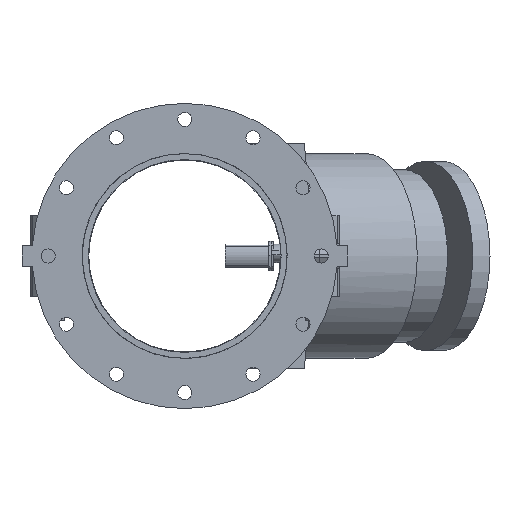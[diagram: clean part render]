
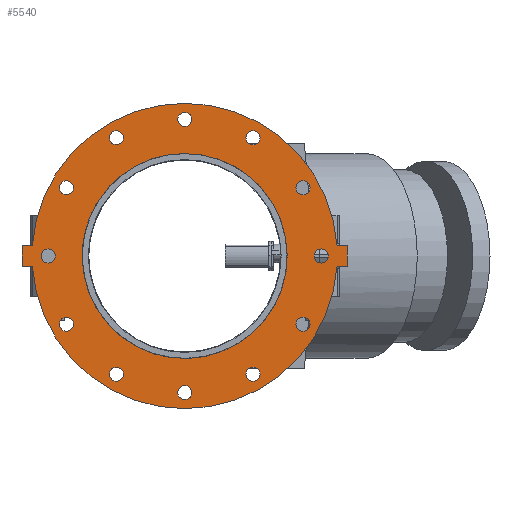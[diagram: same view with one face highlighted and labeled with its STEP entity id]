
A CAD part, front view. The second image highlights one B-rep face of the part: STEP entity #5540.
In plain terms, the highlighted planar face has unit normal (0, -1, 0) as drawn and (0, 0, 1) by its records, which use the part's own axes.
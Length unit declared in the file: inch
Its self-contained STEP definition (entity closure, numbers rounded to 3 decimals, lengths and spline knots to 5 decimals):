
#147=FACE_BOUND('',#742,.T.);
#148=FACE_BOUND('',#743,.T.);
#149=FACE_BOUND('',#744,.T.);
#150=FACE_BOUND('',#745,.T.);
#151=FACE_BOUND('',#746,.T.);
#152=FACE_BOUND('',#747,.T.);
#153=FACE_BOUND('',#748,.T.);
#154=FACE_BOUND('',#749,.T.);
#155=FACE_BOUND('',#750,.T.);
#156=FACE_BOUND('',#751,.T.);
#157=FACE_BOUND('',#752,.T.);
#158=FACE_BOUND('',#753,.T.);
#159=FACE_BOUND('',#754,.T.);
#223=PLANE('',#6060);
#422=FACE_OUTER_BOUND('',#741,.T.);
#741=EDGE_LOOP('',(#3654,#3655,#3656,#3657,#3658,#3659,#3660,#3661));
#742=EDGE_LOOP('',(#3662));
#743=EDGE_LOOP('',(#3663));
#744=EDGE_LOOP('',(#3664));
#745=EDGE_LOOP('',(#3665));
#746=EDGE_LOOP('',(#3666));
#747=EDGE_LOOP('',(#3667));
#748=EDGE_LOOP('',(#3668));
#749=EDGE_LOOP('',(#3669));
#750=EDGE_LOOP('',(#3670));
#751=EDGE_LOOP('',(#3671));
#752=EDGE_LOOP('',(#3672));
#753=EDGE_LOOP('',(#3673));
#754=EDGE_LOOP('',(#3674,#3675));
#1118=LINE('',#8492,#1531);
#1119=LINE('',#8495,#1532);
#1122=LINE('',#8500,#1535);
#1123=LINE('',#8503,#1536);
#1125=LINE('',#8506,#1538);
#1126=LINE('',#8508,#1539);
#1531=VECTOR('',#6783,0.3937);
#1532=VECTOR('',#6786,0.3937);
#1535=VECTOR('',#6791,0.3937);
#1536=VECTOR('',#6794,0.3937);
#1538=VECTOR('',#6798,0.3937);
#1539=VECTOR('',#6801,0.3937);
#1920=CIRCLE('',#6007,0.4375);
#1922=CIRCLE('',#6010,0.4375);
#1924=CIRCLE('',#6013,0.4375);
#1926=CIRCLE('',#6016,0.4375);
#1928=CIRCLE('',#6019,0.4375);
#1930=CIRCLE('',#6022,0.4375);
#1932=CIRCLE('',#6025,0.4375);
#1934=CIRCLE('',#6028,0.4375);
#1936=CIRCLE('',#6031,0.4375);
#1938=CIRCLE('',#6034,0.4375);
#1940=CIRCLE('',#6037,0.4375);
#1942=CIRCLE('',#6040,0.4375);
#1948=CIRCLE('',#6048,9.5);
#1949=CIRCLE('',#6050,6.375);
#1950=CIRCLE('',#6051,6.375);
#1951=CIRCLE('',#6053,9.5);
#2236=VERTEX_POINT('',#8379);
#2238=VERTEX_POINT('',#8385);
#2240=VERTEX_POINT('',#8391);
#2242=VERTEX_POINT('',#8397);
#2244=VERTEX_POINT('',#8403);
#2246=VERTEX_POINT('',#8409);
#2248=VERTEX_POINT('',#8415);
#2250=VERTEX_POINT('',#8421);
#2252=VERTEX_POINT('',#8427);
#2254=VERTEX_POINT('',#8433);
#2256=VERTEX_POINT('',#8439);
#2258=VERTEX_POINT('',#8445);
#2270=VERTEX_POINT('',#8472);
#2271=VERTEX_POINT('',#8474);
#2272=VERTEX_POINT('',#8478);
#2273=VERTEX_POINT('',#8480);
#2274=VERTEX_POINT('',#8484);
#2275=VERTEX_POINT('',#8486);
#2276=VERTEX_POINT('',#8490);
#2277=VERTEX_POINT('',#8494);
#2278=VERTEX_POINT('',#8498);
#2279=VERTEX_POINT('',#8502);
#2768=EDGE_CURVE('',#2236,#2236,#1920,.T.);
#2771=EDGE_CURVE('',#2238,#2238,#1922,.T.);
#2774=EDGE_CURVE('',#2240,#2240,#1924,.T.);
#2777=EDGE_CURVE('',#2242,#2242,#1926,.T.);
#2780=EDGE_CURVE('',#2244,#2244,#1928,.T.);
#2783=EDGE_CURVE('',#2246,#2246,#1930,.T.);
#2786=EDGE_CURVE('',#2248,#2248,#1932,.T.);
#2789=EDGE_CURVE('',#2250,#2250,#1934,.T.);
#2792=EDGE_CURVE('',#2252,#2252,#1936,.T.);
#2795=EDGE_CURVE('',#2254,#2254,#1938,.T.);
#2798=EDGE_CURVE('',#2256,#2256,#1940,.T.);
#2801=EDGE_CURVE('',#2258,#2258,#1942,.T.);
#2816=EDGE_CURVE('',#2270,#2271,#1948,.T.);
#2818=EDGE_CURVE('',#2273,#2272,#1949,.T.);
#2819=EDGE_CURVE('',#2272,#2273,#1950,.T.);
#2821=EDGE_CURVE('',#2275,#2274,#1951,.T.);
#2824=EDGE_CURVE('',#2271,#2276,#1118,.T.);
#2825=EDGE_CURVE('',#2277,#2275,#1119,.T.);
#2828=EDGE_CURVE('',#2274,#2278,#1122,.T.);
#2829=EDGE_CURVE('',#2279,#2270,#1123,.T.);
#2831=EDGE_CURVE('',#2278,#2279,#1125,.T.);
#2832=EDGE_CURVE('',#2276,#2277,#1126,.T.);
#3654=ORIENTED_EDGE('',*,*,#2828,.T.);
#3655=ORIENTED_EDGE('',*,*,#2831,.T.);
#3656=ORIENTED_EDGE('',*,*,#2829,.T.);
#3657=ORIENTED_EDGE('',*,*,#2816,.T.);
#3658=ORIENTED_EDGE('',*,*,#2824,.T.);
#3659=ORIENTED_EDGE('',*,*,#2832,.T.);
#3660=ORIENTED_EDGE('',*,*,#2825,.T.);
#3661=ORIENTED_EDGE('',*,*,#2821,.T.);
#3662=ORIENTED_EDGE('',*,*,#2768,.T.);
#3663=ORIENTED_EDGE('',*,*,#2771,.T.);
#3664=ORIENTED_EDGE('',*,*,#2774,.T.);
#3665=ORIENTED_EDGE('',*,*,#2777,.T.);
#3666=ORIENTED_EDGE('',*,*,#2780,.T.);
#3667=ORIENTED_EDGE('',*,*,#2783,.T.);
#3668=ORIENTED_EDGE('',*,*,#2786,.T.);
#3669=ORIENTED_EDGE('',*,*,#2789,.T.);
#3670=ORIENTED_EDGE('',*,*,#2792,.T.);
#3671=ORIENTED_EDGE('',*,*,#2795,.T.);
#3672=ORIENTED_EDGE('',*,*,#2798,.T.);
#3673=ORIENTED_EDGE('',*,*,#2801,.T.);
#3674=ORIENTED_EDGE('',*,*,#2818,.T.);
#3675=ORIENTED_EDGE('',*,*,#2819,.T.);
#5540=ADVANCED_FACE('',(#422,#147,#148,#149,#150,#151,#152,#153,#154,#155,
#156,#157,#158,#159),#223,.T.);
#6007=AXIS2_PLACEMENT_3D('',#8380,#6663,#6664);
#6010=AXIS2_PLACEMENT_3D('',#8386,#6670,#6671);
#6013=AXIS2_PLACEMENT_3D('',#8392,#6677,#6678);
#6016=AXIS2_PLACEMENT_3D('',#8398,#6684,#6685);
#6019=AXIS2_PLACEMENT_3D('',#8404,#6691,#6692);
#6022=AXIS2_PLACEMENT_3D('',#8410,#6698,#6699);
#6025=AXIS2_PLACEMENT_3D('',#8416,#6705,#6706);
#6028=AXIS2_PLACEMENT_3D('',#8422,#6712,#6713);
#6031=AXIS2_PLACEMENT_3D('',#8428,#6719,#6720);
#6034=AXIS2_PLACEMENT_3D('',#8434,#6726,#6727);
#6037=AXIS2_PLACEMENT_3D('',#8440,#6733,#6734);
#6040=AXIS2_PLACEMENT_3D('',#8446,#6740,#6741);
#6048=AXIS2_PLACEMENT_3D('',#8476,#6765,#6766);
#6050=AXIS2_PLACEMENT_3D('',#8481,#6770,#6771);
#6051=AXIS2_PLACEMENT_3D('',#8482,#6772,#6773);
#6053=AXIS2_PLACEMENT_3D('',#8487,#6777,#6778);
#6060=AXIS2_PLACEMENT_3D('',#8509,#6802,#6803);
#6663=DIRECTION('center_axis',(0.,0.,-1.));
#6664=DIRECTION('ref_axis',(-0.866,0.5,0.));
#6670=DIRECTION('center_axis',(0.,0.,-1.));
#6671=DIRECTION('ref_axis',(-0.5,0.866,0.));
#6677=DIRECTION('center_axis',(0.,0.,-1.));
#6678=DIRECTION('ref_axis',(0.,1.,0.));
#6684=DIRECTION('center_axis',(0.,0.,-1.));
#6685=DIRECTION('ref_axis',(0.5,0.866,0.));
#6691=DIRECTION('center_axis',(0.,0.,-1.));
#6692=DIRECTION('ref_axis',(0.866,0.5,0.));
#6698=DIRECTION('center_axis',(0.,0.,-1.));
#6699=DIRECTION('ref_axis',(1.,0.,0.));
#6705=DIRECTION('center_axis',(0.,0.,-1.));
#6706=DIRECTION('ref_axis',(0.866,-0.5,0.));
#6712=DIRECTION('center_axis',(0.,0.,-1.));
#6713=DIRECTION('ref_axis',(0.5,-0.866,0.));
#6719=DIRECTION('center_axis',(0.,0.,-1.));
#6720=DIRECTION('ref_axis',(0.,-1.,0.));
#6726=DIRECTION('center_axis',(0.,0.,-1.));
#6727=DIRECTION('ref_axis',(-0.5,-0.866,0.));
#6733=DIRECTION('center_axis',(0.,0.,-1.));
#6734=DIRECTION('ref_axis',(-0.866,-0.5,0.));
#6740=DIRECTION('center_axis',(0.,0.,-1.));
#6741=DIRECTION('ref_axis',(-1.,0.,0.));
#6765=DIRECTION('center_axis',(0.,0.,1.));
#6766=DIRECTION('ref_axis',(-1.,0.,0.));
#6770=DIRECTION('center_axis',(0.,0.,-1.));
#6771=DIRECTION('ref_axis',(-1.,0.,0.));
#6772=DIRECTION('center_axis',(0.,0.,-1.));
#6773=DIRECTION('ref_axis',(-1.,0.,0.));
#6777=DIRECTION('center_axis',(0.,0.,1.));
#6778=DIRECTION('ref_axis',(-1.,0.,0.));
#6783=DIRECTION('',(0.,1.,0.));
#6786=DIRECTION('',(0.,-1.,0.));
#6791=DIRECTION('',(0.,-1.,0.));
#6794=DIRECTION('',(0.,1.,0.));
#6798=DIRECTION('',(1.,0.,0.));
#6801=DIRECTION('',(-1.,0.,0.));
#6802=DIRECTION('center_axis',(0.,0.,1.));
#6803=DIRECTION('ref_axis',(1.,0.,0.));
#8379=CARTESIAN_POINT('',(-6.98233,4.03125,0.625));
#8380=CARTESIAN_POINT('Origin',(-7.36122,4.25,0.625));
#8385=CARTESIAN_POINT('',(-4.03125,6.98233,0.625));
#8386=CARTESIAN_POINT('Origin',(-4.25,7.36122,0.625));
#8391=CARTESIAN_POINT('',(0.,8.0625,0.625));
#8392=CARTESIAN_POINT('Origin',(0.,8.5,0.625));
#8397=CARTESIAN_POINT('',(4.03125,6.98233,0.625));
#8398=CARTESIAN_POINT('Origin',(4.25,7.36122,0.625));
#8403=CARTESIAN_POINT('',(6.98233,4.03125,0.625));
#8404=CARTESIAN_POINT('Origin',(7.36122,4.25,0.625));
#8409=CARTESIAN_POINT('',(8.0625,0.,0.625));
#8410=CARTESIAN_POINT('Origin',(8.5,0.,0.625));
#8415=CARTESIAN_POINT('',(6.98233,-4.03125,0.625));
#8416=CARTESIAN_POINT('Origin',(7.36122,-4.25,0.625));
#8421=CARTESIAN_POINT('',(4.03125,-6.98233,0.625));
#8422=CARTESIAN_POINT('Origin',(4.25,-7.36122,0.625));
#8427=CARTESIAN_POINT('',(0.,-8.0625,0.625));
#8428=CARTESIAN_POINT('Origin',(0.,-8.5,0.625));
#8433=CARTESIAN_POINT('',(-4.03125,-6.98233,0.625));
#8434=CARTESIAN_POINT('Origin',(-4.25,-7.36122,0.625));
#8439=CARTESIAN_POINT('',(-6.98233,-4.03125,0.625));
#8440=CARTESIAN_POINT('Origin',(-7.36122,-4.25,0.625));
#8445=CARTESIAN_POINT('',(-8.0625,0.,0.625));
#8446=CARTESIAN_POINT('Origin',(-8.5,0.,0.625));
#8472=CARTESIAN_POINT('',(0.625,-9.47942,0.625));
#8474=CARTESIAN_POINT('',(0.625,9.47942,0.625));
#8476=CARTESIAN_POINT('Origin',(0.,0.,0.625));
#8478=CARTESIAN_POINT('',(6.375,0.,0.625));
#8480=CARTESIAN_POINT('',(0.625,6.34429,0.625));
#8481=CARTESIAN_POINT('Origin',(0.,0.,0.625));
#8482=CARTESIAN_POINT('Origin',(0.,0.,0.625));
#8484=CARTESIAN_POINT('',(-0.625,-9.47942,0.625));
#8486=CARTESIAN_POINT('',(-0.625,9.47942,0.625));
#8487=CARTESIAN_POINT('Origin',(0.,0.,0.625));
#8490=CARTESIAN_POINT('',(0.625,10.125,0.625));
#8492=CARTESIAN_POINT('',(0.625,10.125,0.625));
#8494=CARTESIAN_POINT('',(-0.625,10.125,0.625));
#8495=CARTESIAN_POINT('',(-0.625,-10.125,0.625));
#8498=CARTESIAN_POINT('',(-0.625,-10.125,0.625));
#8500=CARTESIAN_POINT('',(-0.625,-10.125,0.625));
#8502=CARTESIAN_POINT('',(0.625,-10.125,0.625));
#8503=CARTESIAN_POINT('',(0.625,10.125,0.625));
#8506=CARTESIAN_POINT('',(0.625,-10.125,0.625));
#8508=CARTESIAN_POINT('',(-0.625,10.125,0.625));
#8509=CARTESIAN_POINT('Origin',(0.,0.,0.625));
